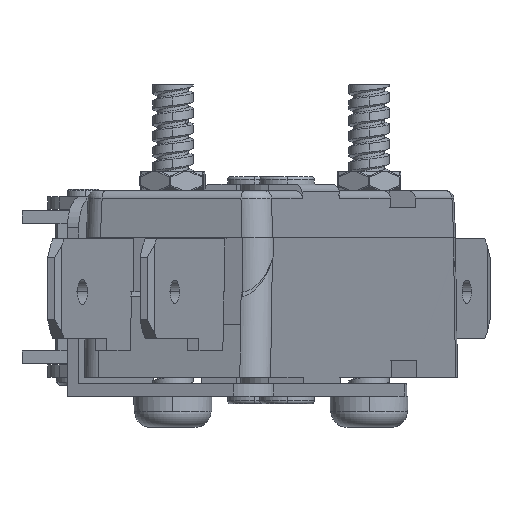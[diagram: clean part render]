
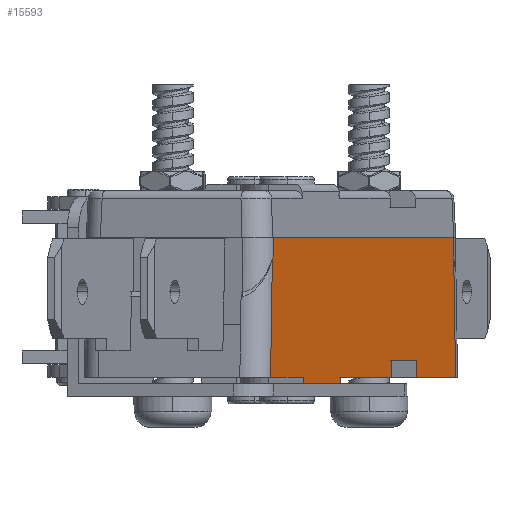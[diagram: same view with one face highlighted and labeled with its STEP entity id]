
A CAD part, left-side view. The second image highlights one B-rep face of the part: STEP entity #15593.
In plain terms, the highlighted planar face has unit normal (-0.399, -0.917, 0).
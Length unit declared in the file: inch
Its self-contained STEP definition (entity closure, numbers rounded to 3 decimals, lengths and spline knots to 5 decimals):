
#751=DIRECTION('',(-0.917,0.399,0.));
#752=VECTOR('',#751,29.);
#753=CARTESIAN_POINT('',(59.79534,-8.94962,0.00171));
#754=LINE('',#753,#752);
#767=CARTESIAN_POINT('',(59.79534,-8.94962,-1.2483));
#768=CARTESIAN_POINT('',(59.80629,-8.95438,-1.2662));
#769=CARTESIAN_POINT('',(59.82821,-8.96373,-1.30195));
#770=CARTESIAN_POINT('',(59.8606,-8.97867,-1.35541));
#771=CARTESIAN_POINT('',(59.88306,-8.98634,-1.39097));
#772=CARTESIAN_POINT('',(59.89391,-8.99106,-1.40873));
#774=DIRECTION('',(0.035,-0.015,-0.999));
#775=VECTOR('',#774,7.59518);
#776=CARTESIAN_POINT('',(59.89391,-8.99106,-1.40873));
#777=LINE('',#776,#775);
#778=DIRECTION('',(0.,0.,1.));
#779=VECTOR('',#778,1.1);
#780=CARTESIAN_POINT('',(54.38486,-6.59661,-8.9983));
#781=LINE('',#780,#779);
#782=DIRECTION('',(0.,0.,-1.));
#783=VECTOR('',#782,1.1);
#784=CARTESIAN_POINT('',(50.71674,-5.00135,-7.8983));
#785=LINE('',#784,#783);
#786=DIRECTION('',(0.,0.,-1.));
#787=VECTOR('',#786,0.4);
#788=CARTESIAN_POINT('',(43.19708,-1.73106,-8.9983));
#789=LINE('',#788,#787);
#790=DIRECTION('',(-0.917,0.399,0.));
#791=VECTOR('',#790,6.);
#792=CARTESIAN_POINT('',(43.19708,-1.73106,-9.3983));
#793=LINE('',#792,#791);
#794=DIRECTION('',(0.,0.,1.));
#795=VECTOR('',#794,0.4);
#796=CARTESIAN_POINT('',(37.69489,0.66184,-9.3983));
#797=LINE('',#796,#795);
#798=DIRECTION('',(0.035,-0.015,0.999));
#799=VECTOR('',#798,7.59518);
#800=CARTESIAN_POINT('',(32.83573,2.77508,-8.9983));
#801=LINE('',#800,#799);
#802=CARTESIAN_POINT('',(59.79534,-8.94962,0.00171));
#813=DIRECTION('',(0.,0.,1.));
#814=VECTOR('',#813,1.25001);
#815=CARTESIAN_POINT('',(59.79534,-8.94962,-1.2483));
#816=LINE('',#815,#814);
#1614=DIRECTION('',(0.,0.,-1.));
#1615=VECTOR('',#1614,1.25001);
#1616=CARTESIAN_POINT('',(33.20144,2.61603,0.00171));
#1617=LINE('',#1616,#1615);
#1618=CARTESIAN_POINT('',(33.20144,2.61603,-1.2483));
#1619=CARTESIAN_POINT('',(33.19056,2.62076,-1.2661));
#1620=CARTESIAN_POINT('',(33.16886,2.63039,-1.30171));
#1621=CARTESIAN_POINT('',(33.13592,2.64386,-1.35517));
#1622=CARTESIAN_POINT('',(33.11487,2.65511,-1.39087));
#1623=CARTESIAN_POINT('',(33.10392,2.65987,-1.40873));
#1689=DIRECTION('',(0.917,-0.399,0.));
#1690=VECTOR('',#1689,6.2988);
#1691=CARTESIAN_POINT('',(54.38486,-6.59661,
-8.9983));
#1692=LINE('',#1691,#1690);
#1797=DIRECTION('',(0.917,-0.399,0.));
#1798=VECTOR('',#1797,5.2988);
#1799=CARTESIAN_POINT('',(32.83573,2.77508,-8.9983));
#1800=LINE('',#1799,#1798);
#1819=DIRECTION('',(0.917,-0.399,0.));
#1820=VECTOR('',#1819,8.2);
#1821=CARTESIAN_POINT('',(43.19708,-1.73106,
-8.9983));
#1822=LINE('',#1821,#1820);
#1848=DIRECTION('',(0.917,-0.399,0.));
#1849=VECTOR('',#1848,4.);
#1850=CARTESIAN_POINT('',(50.71674,-5.00135,
-7.8983));
#1851=LINE('',#1850,#1849);
#11289=CARTESIAN_POINT('',(59.89391,-8.99106,
-1.40873));
#13839=VERTEX_POINT('',#11289);
#13872=VERTEX_POINT('',#802);
#13873=VERTEX_POINT('',#767);
#13874=CARTESIAN_POINT('',(33.20144,2.61603,
0.00171));
#13875=VERTEX_POINT('',#13874);
#13896=CARTESIAN_POINT('',(60.16106,-9.10867,
-8.9983));
#13897=VERTEX_POINT('',#13896);
#13898=CARTESIAN_POINT('',(54.38486,-6.59661,
-8.9983));
#13899=VERTEX_POINT('',#13898);
#13900=CARTESIAN_POINT('',(54.38486,-6.59661,
-7.8983));
#13901=VERTEX_POINT('',#13900);
#13902=CARTESIAN_POINT('',(50.71674,-5.00135,
-7.8983));
#13903=VERTEX_POINT('',#13902);
#13904=CARTESIAN_POINT('',(50.71674,-5.00135,
-8.9983));
#13905=VERTEX_POINT('',#13904);
#13906=CARTESIAN_POINT('',(43.19708,-1.73106,
-8.9983));
#13907=VERTEX_POINT('',#13906);
#13908=CARTESIAN_POINT('',(43.19708,-1.73106,
-9.3983));
#13909=VERTEX_POINT('',#13908);
#13910=CARTESIAN_POINT('',(37.69489,0.66184,
-9.3983));
#13911=VERTEX_POINT('',#13910);
#13912=CARTESIAN_POINT('',(37.69489,0.66184,
-8.9983));
#13913=VERTEX_POINT('',#13912);
#13914=CARTESIAN_POINT('',(32.83573,2.77508,
-8.9983));
#13915=VERTEX_POINT('',#13914);
#13916=CARTESIAN_POINT('',(33.10392,2.65987,
-1.40873));
#13917=VERTEX_POINT('',#13916);
#13918=VERTEX_POINT('',#1618);
#15555=CARTESIAN_POINT('',(46.49839,-3.1668,
-4.6983));
#15556=DIRECTION('',(0.399,0.917,0.));
#15557=DIRECTION('',(0.917,-0.399,0.));
#15558=AXIS2_PLACEMENT_3D('',#15555,#15556,#15557);
#15559=PLANE('',#15558);
#15560=ORIENTED_EDGE('',*,*,#15530,.F.);
#15562=ORIENTED_EDGE('',*,*,#15561,.F.);
#15564=ORIENTED_EDGE('',*,*,#15563,.T.);
#15566=ORIENTED_EDGE('',*,*,#15565,.T.);
#15568=ORIENTED_EDGE('',*,*,#15567,.F.);
#15570=ORIENTED_EDGE('',*,*,#15569,.T.);
#15572=ORIENTED_EDGE('',*,*,#15571,.F.);
#15574=ORIENTED_EDGE('',*,*,#15573,.T.);
#15576=ORIENTED_EDGE('',*,*,#15575,.F.);
#15578=ORIENTED_EDGE('',*,*,#15577,.T.);
#15580=ORIENTED_EDGE('',*,*,#15579,.T.);
#15582=ORIENTED_EDGE('',*,*,#15581,.T.);
#15584=ORIENTED_EDGE('',*,*,#15583,.F.);
#15586=ORIENTED_EDGE('',*,*,#15585,.T.);
#15588=ORIENTED_EDGE('',*,*,#15587,.F.);
#15590=ORIENTED_EDGE('',*,*,#15589,.F.);
#15591=EDGE_LOOP('',(#15560,#15562,#15564,#15566,#15568,#15570,#15572,#15574,
#15576,#15578,#15580,#15582,#15584,#15586,#15588,#15590));
#15592=FACE_OUTER_BOUND('',#15591,.F.);
#15593=ADVANCED_FACE('',(#15592),#15559,.F.);
#773=B_SPLINE_CURVE_WITH_KNOTS('',3,(#767,#768,#769,#770,#771,#772),
.UNSPECIFIED.,.F.,.F.,(4,1,1,4),(0.,0.33333,0.66667,1.),
.UNSPECIFIED.);
#1624=B_SPLINE_CURVE_WITH_KNOTS('',3,(#1618,#1619,#1620,#1621,#1622,#1623),
.UNSPECIFIED.,.F.,.F.,(4,1,1,4),(0.,0.33333,0.66667,1.),
.UNSPECIFIED.);
#15530=EDGE_CURVE('',#13872,#13875,#754,.T.);
#15561=EDGE_CURVE('',#13873,#13872,#816,.T.);
#15563=EDGE_CURVE('',#13873,#13839,#773,.T.);
#15565=EDGE_CURVE('',#13839,#13897,#777,.T.);
#15567=EDGE_CURVE('',#13899,#13897,#1692,.T.);
#15569=EDGE_CURVE('',#13899,#13901,#781,.T.);
#15571=EDGE_CURVE('',#13903,#13901,#1851,.T.);
#15573=EDGE_CURVE('',#13903,#13905,#785,.T.);
#15575=EDGE_CURVE('',#13907,#13905,#1822,.T.);
#15577=EDGE_CURVE('',#13907,#13909,#789,.T.);
#15579=EDGE_CURVE('',#13909,#13911,#793,.T.);
#15581=EDGE_CURVE('',#13911,#13913,#797,.T.);
#15583=EDGE_CURVE('',#13915,#13913,#1800,.T.);
#15585=EDGE_CURVE('',#13915,#13917,#801,.T.);
#15587=EDGE_CURVE('',#13918,#13917,#1624,.T.);
#15589=EDGE_CURVE('',#13875,#13918,#1617,.T.);
